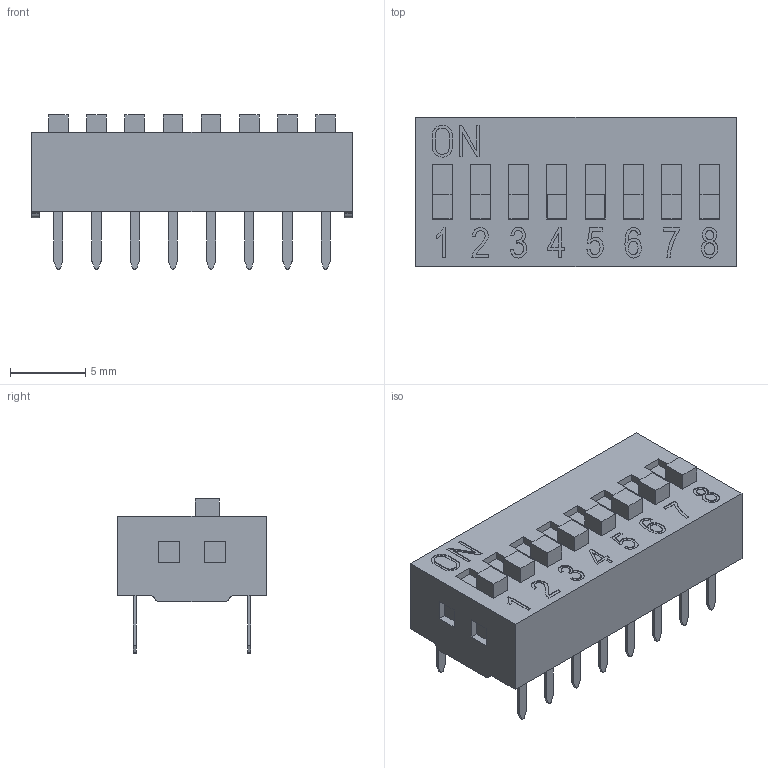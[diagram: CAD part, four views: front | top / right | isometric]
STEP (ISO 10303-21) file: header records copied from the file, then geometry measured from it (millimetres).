
FILE_DESCRIPTION(('FreeCAD Model'),'2;1');
FILE_NAME('C:/Users/Metaltex-99/Desktop/DS-08.stp','2020-08-11T08:52:01' ,('Engenharia Metaltex'),('Metaltex'), 'Open CASCADE STEP processor 7.3','FreeCAD','Unknown');
FILE_SCHEMA(('AUTOMOTIVE_DESIGN { 1 0 10303 214 1 1 1 1 }'));
Length unit declared in the file: millimetre
Products named in the file (1): DS-08
Bounding box: 21.32 x 9.9 x 10.25 mm (x, y, z)
Surface area: 2310.5 mm2 (no closed solid volume)
Topology: 0 solids, 26 shells, 612 faces, 1563 edges, 1042 vertices
Faces by surface type: plane 465, bspline 75, cylinder 72
Entity records: 39600 total; most frequent: CARTESIAN_POINT 8663, DIRECTION 5323, LINE 3951, VECTOR 3951, ORIENTED_EDGE 3126, PCURVE 3126, DEFINITIONAL_REPRESENTATION 3126, EDGE_CURVE 1563
